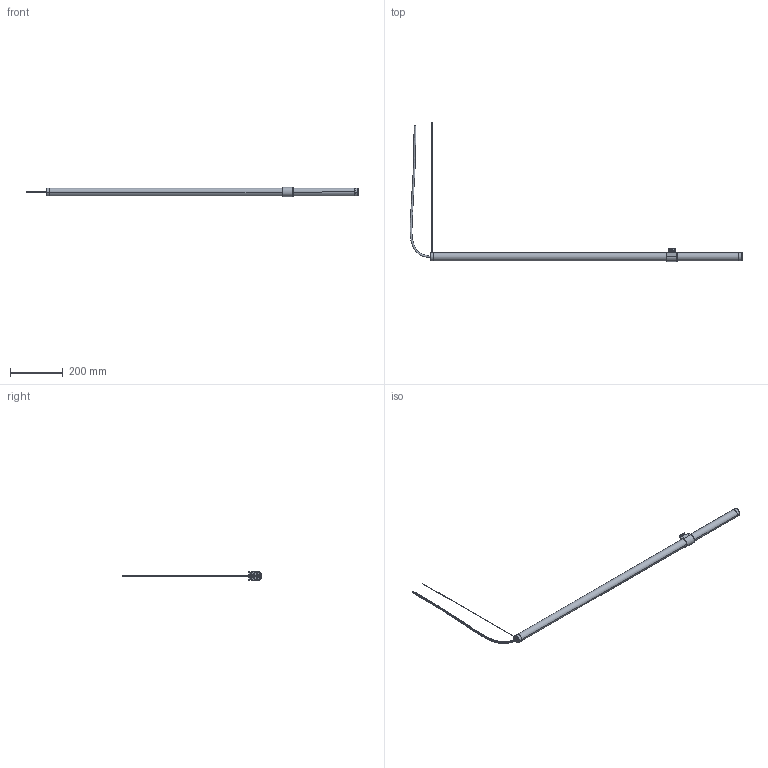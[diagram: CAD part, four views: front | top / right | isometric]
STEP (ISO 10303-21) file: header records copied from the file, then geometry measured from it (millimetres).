
FILE_DESCRIPTION (( 'STEP AP214' ), '1' );
FILE_NAME ('ACTUXCXXEXBI1XX.STEP', '2023-08-29T07:44:09', ( '' ), ( '' ), 'SwSTEP 2.0', 'SolidWorks 2023', '' );
FILE_SCHEMA (( 'AUTOMOTIVE_DESIGN' ));
Length unit declared in the file: millimetre
Products named in the file (7): WSCP2E0046-1400-00; WSVBPAR116225XX-00; WSCP2E0048-1400-00; WSCA01193000B2830B; ACTUXCXXEXBI1XX; WSCP2E0004-1400-02; ACCAVOEL2X001XX
Assembly tree (6 placements, depth 2):
  ACTUXCXXEXBI1XX
    WSVBPAR116225XX-00
    WSCP2E0004-1400-02
    WSCP2E0048-1400-00
    WSCA01193000B2830B
    WSCP2E0046-1400-00
    ACCAVOEL2X001XX
Bounding box: 1263.96 x 529.6 x 36.2 mm (x, y, z)
Volume: 318061.5 mm3; surface area: 254872.6 mm2
Topology: 13 solids, 13 shells, 1003 faces, 2312 edges, 1262 vertices
Faces by surface type: bspline 444, cylinder 405, plane 144, cone 10
Entity records: 45944 total; most frequent: CARTESIAN_POINT 25846, ORIENTED_EDGE 4476, DIRECTION 3838, EDGE_CURVE 2238, AXIS2_PLACEMENT_3D 1553, VERTEX_POINT 1262, EDGE_LOOP 1036, ADVANCED_FACE 1003
